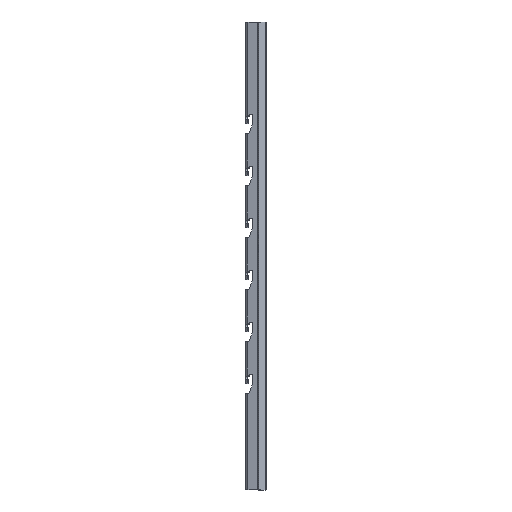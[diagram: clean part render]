
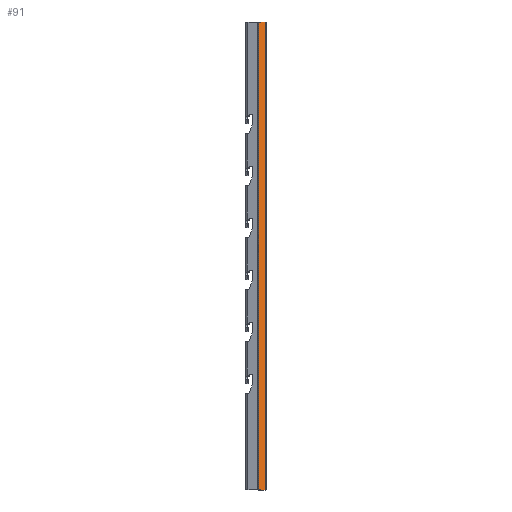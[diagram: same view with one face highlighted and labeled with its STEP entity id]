
A CAD part, left-side view. The second image highlights one B-rep face of the part: STEP entity #91.
In plain terms, the highlighted planar face has unit normal (-0.832, -0.555, 0).
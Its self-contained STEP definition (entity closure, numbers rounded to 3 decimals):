
#91 = ADVANCED_FACE ( 'NONE', ( #6732 ), #11051, .T. ) ;
#728 = LINE ( 'NONE', #3336, #7622 ) ;
#946 = VECTOR ( 'NONE', #9782, 1000. ) ;
#1380 = DIRECTION ( 'NONE',  ( 0., 0., -1. ) ) ;
#1541 = AXIS2_PLACEMENT_3D ( 'NONE', #4488, #1634, #7945 ) ;
#1634 = DIRECTION ( 'NONE',  ( -0.832, -0.555, 0. ) ) ;
#2287 = CARTESIAN_POINT ( 'NONE',  ( -26., -12.606, 450. ) ) ;
#2767 = VECTOR ( 'NONE', #3247, 1000. ) ;
#3247 = DIRECTION ( 'NONE',  ( 0., 0., -1. ) ) ;
#3336 = CARTESIAN_POINT ( 'NONE',  ( -26., -12.606, 450. ) ) ;
#3415 = ORIENTED_EDGE ( 'NONE', *, *, #4469, .F. ) ;
#3497 = VERTEX_POINT ( 'NONE', #6579 ) ;
#3872 = EDGE_CURVE ( 'NONE', #10125, #3497, #7342, .T. ) ;
#4401 = EDGE_CURVE ( 'NONE', #6806, #3497, #11137, .T. ) ;
#4469 = EDGE_CURVE ( 'NONE', #10403, #10125, #6695, .T. ) ;
#4488 = CARTESIAN_POINT ( 'NONE',  ( -26., -12.606, 450. ) ) ;
#6179 = VECTOR ( 'NONE', #1380, 1000. ) ;
#6568 = EDGE_CURVE ( 'NONE', #10403, #6806, #728, .T. ) ;
#6579 = CARTESIAN_POINT ( 'NONE',  ( -26., -12.606, 0. ) ) ;
#6695 = LINE ( 'NONE', #8454, #2767 ) ;
#6732 = FACE_OUTER_BOUND ( 'NONE', #8639, .T. ) ;
#6781 = DIRECTION ( 'NONE',  ( -0.555, 0.832, 0. ) ) ;
#6806 = VERTEX_POINT ( 'NONE', #9841 ) ;
#7342 = LINE ( 'NONE', #10690, #946 ) ;
#7480 = CARTESIAN_POINT ( 'NONE',  ( -21.961, -18.664, 0. ) ) ;
#7622 = VECTOR ( 'NONE', #6781, 1000. ) ;
#7716 = ORIENTED_EDGE ( 'NONE', *, *, #6568, .T. ) ;
#7945 = DIRECTION ( 'NONE',  ( 0.555, -0.832, 0. ) ) ;
#8454 = CARTESIAN_POINT ( 'NONE',  ( -21.961, -18.664, 450. ) ) ;
#8639 = EDGE_LOOP ( 'NONE', ( #8972, #3415, #7716, #10999 ) ) ;
#8972 = ORIENTED_EDGE ( 'NONE', *, *, #3872, .F. ) ;
#9563 = CARTESIAN_POINT ( 'NONE',  ( -21.961, -18.664, 450. ) ) ;
#9782 = DIRECTION ( 'NONE',  ( -0.555, 0.832, 0. ) ) ;
#9841 = CARTESIAN_POINT ( 'NONE',  ( -26., -12.606, 450. ) ) ;
#10125 = VERTEX_POINT ( 'NONE', #7480 ) ;
#10403 = VERTEX_POINT ( 'NONE', #9563 ) ;
#10690 = CARTESIAN_POINT ( 'NONE',  ( -26., -12.606, 0. ) ) ;
#10999 = ORIENTED_EDGE ( 'NONE', *, *, #4401, .T. ) ;
#11051 = PLANE ( 'NONE',  #1541 ) ;
#11137 = LINE ( 'NONE', #2287, #6179 ) ;
